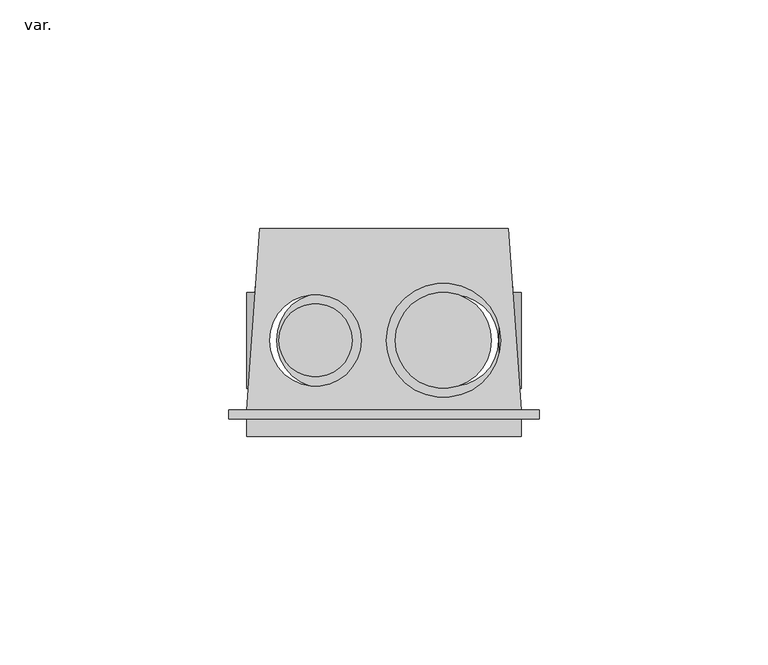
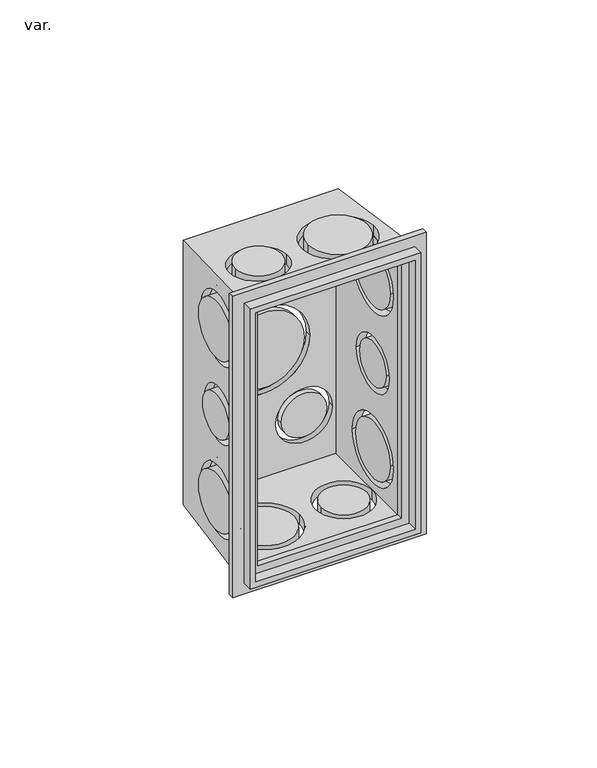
"""IFC4 building model written with IfcOpenShell, lengths in millimetres: pipe fitting geometry, AmancoWavin_ConexõesdoConduite_LinhaEletricaSoldRoscCaixa4x2 : var.."""

import ifcopenshell
import ifcopenshell.guid

model = None  # the IFC model being written
_history = None  # IfcOwnerHistory: only IFC2X3 demands one
_inside = {}  # id of a spatial element -> (the spatial element, [elements in it])
_under = {}  # id of a project, library or spatial element -> (it, [spatial elements below it])
_declared = {}  # id of a project -> (the project, [libraries it declares])
_typed = {}  # id of a type object -> (the type object, [elements of that type])
_made_of = {}  # id of a material, layer set ... -> (it, [elements and type objects made of it])


def new_model(schema):
    """Start an empty IFC model of exactly this schema.

    Asked for "IFC4X3", IfcOpenShell would pick the latest addendum, in which some entities
    have other attributes; the version numbers below select the first issue.
    IFC2X3 requires an IfcOwnerHistory on every rooted entity: one is made here for all.
    """
    global model, _history
    if schema == "IFC4X3":
        model = ifcopenshell.file(schema_version=(4, 3, 0, 0))
    else:
        model = ifcopenshell.file(schema=schema)
    _inside.clear()
    _under.clear()
    _declared.clear()
    _typed.clear()
    _made_of.clear()
    _history = None
    if model.schema == "IFC2X3":
        org = make("IfcOrganization", Name="unknown")
        user = make(
            "IfcPersonAndOrganization",
            ThePerson=make("IfcPerson", FamilyName="unknown"),
            TheOrganization=org,
        )
        app = make(
            "IfcApplication",
            ApplicationDeveloper=org,
            Version="unknown",
            ApplicationFullName="unknown",
            ApplicationIdentifier="unknown",
        )
        _history = make(
            "IfcOwnerHistory",
            OwningUser=user,
            OwningApplication=app,
            ChangeAction="ADDED",
            CreationDate=0,
        )
    return model


def make(cls, **values):
    """One entity of the class cls with the attributes given. An attribute that is None is left unset."""
    return model.create_entity(
        cls, **{name: value for name, value in values.items() if value is not None}
    )


def rooted(cls, **values):
    """An entity with a GlobalId (a new one), such as an element, a storey or a relation."""
    return make(cls, GlobalId=ifcopenshell.guid.new(), OwnerHistory=_history, **values)


def si_unit(unit_type, name, prefix=None):
    """IfcSIUnit, for example si_unit("LENGTHUNIT", "METRE", prefix="MILLI")."""
    return make("IfcSIUnit", UnitType=unit_type, Prefix=prefix, Name=name)


def assignment(units):
    """IfcUnitAssignment: the units of a project."""
    return None if units is None else make("IfcUnitAssignment", Units=units)


def point(xyz):
    """IfcCartesianPoint."""
    return None if xyz is None else make("IfcCartesianPoint", Coordinates=xyz)


def direction(xyz):
    """IfcDirection."""
    return None if xyz is None else make("IfcDirection", DirectionRatios=xyz)


def frame(location, z_axis=None, x_axis=None):
    """IfcAxis2Placement3D, a coordinate frame: its origin and axes. An axis left out is left unset."""
    return make(
        "IfcAxis2Placement3D",
        Location=point(location),
        Axis=direction(z_axis),
        RefDirection=direction(x_axis),
    )


def frame_2d(location, x_axis=None):
    """IfcAxis2Placement2D, a coordinate frame in the plane: its origin and x axis."""
    return make(
        "IfcAxis2Placement2D", Location=point(location), RefDirection=direction(x_axis)
    )


def origin():
    """The frame at (0, 0, 0) with its axes left unset."""
    return frame((0.0, 0.0, 0.0))


def place(relative_to, where):
    """IfcLocalPlacement: puts the frame where relative to a parent placement (None: the world)."""
    return make(
        "IfcLocalPlacement", PlacementRelTo=relative_to, RelativePlacement=where
    )


def context(
    kind, dimensions, precision=None, world=None, true_north=None, identifier=None
):
    """IfcGeometricRepresentationContext, for example the 3D "Model" context."""
    return make(
        "IfcGeometricRepresentationContext",
        ContextIdentifier=identifier,
        ContextType=kind,
        CoordinateSpaceDimension=dimensions,
        Precision=precision,
        WorldCoordinateSystem=world,
        TrueNorth=true_north,
    )


def project(units=None, contexts=None):
    """IfcProject with its units and contexts."""
    return rooted(
        "IfcProject",
        Name="project",
        RepresentationContexts=contexts,
        UnitsInContext=assignment(units),
    )


def spatial(cls, under=None, at=None, **own):
    """A site, building, storey or space (cls), placed at a placement, below another one or the project."""
    s = rooted(cls, ObjectPlacement=at, **own)
    if under is not None:
        _under.setdefault(under.id(), (under, []))[1].append(s)
    return s


def polyline(points):
    """IfcPolyline through the points."""
    return make("IfcPolyline", Points=[point(p) for p in points])


def circle_curve(where, radius):
    """IfcCircle in the frame where."""
    return make("IfcCircle", Position=where, Radius=radius)


def ellipse_curve(where, semi_axis1, semi_axis2):
    """IfcEllipse in the frame where."""
    return make(
        "IfcEllipse", Position=where, SemiAxis1=semi_axis1, SemiAxis2=semi_axis2
    )


def trimmed(basis, trim1, trim2, sense, master):
    """IfcTrimmedCurve: the piece of a basis curve between two trims."""
    return make(
        "IfcTrimmedCurve",
        BasisCurve=basis,
        Trim1=trim1,
        Trim2=trim2,
        SenseAgreement=sense,
        MasterRepresentation=master,
    )


def segment(curve, same_sense, transition):
    """IfcCompositeCurveSegment."""
    return make(
        "IfcCompositeCurveSegment",
        Transition=transition,
        SameSense=same_sense,
        ParentCurve=curve,
    )


def composite_curve(segments, self_intersect=None):
    """IfcCompositeCurve: segments joined end to end."""
    return make("IfcCompositeCurve", Segments=segments, SelfIntersect=self_intersect)


def outline(outer, holes=None, kind="AREA"):
    """IfcArbitraryClosedProfileDef: a profile drawn as a closed curve; with holes, ...WithVoids."""
    if holes is None:
        return make("IfcArbitraryClosedProfileDef", ProfileType=kind, OuterCurve=outer)
    return make(
        "IfcArbitraryProfileDefWithVoids",
        ProfileType=kind,
        OuterCurve=outer,
        InnerCurves=holes,
    )


def extrude(swept, where, along, depth):
    """IfcExtrudedAreaSolid: the profile swept, set in the frame where, extruded along a direction by depth."""
    return make(
        "IfcExtrudedAreaSolid",
        SweptArea=swept,
        Position=where,
        ExtrudedDirection=direction(along),
        Depth=depth,
    )


def shape(context_of_items, identifier, shape_type, items):
    """IfcShapeRepresentation: the items that make up one representation, for example the "Body"."""
    return make(
        "IfcShapeRepresentation",
        ContextOfItems=context_of_items,
        RepresentationIdentifier=identifier,
        RepresentationType=shape_type,
        Items=items,
    )


def source(mapping_origin, context_of_items, identifier, shape_type, items):
    """IfcRepresentationMap: a shape defined once, which mapped items show again and again."""
    return make(
        "IfcRepresentationMap",
        MappingOrigin=mapping_origin,
        MappedRepresentation=shape(context_of_items, identifier, shape_type, items),
    )


def transform(
    local_origin,
    x_axis=None,
    y_axis=None,
    z_axis=None,
    scale=None,
    scale2=None,
    scale3=None,
    uniform=True,
):
    """IfcCartesianTransformationOperator3D, or its non-uniform kind. x_axis, y_axis, z_axis: its Axis1, 2, 3."""
    if uniform:
        return make(
            "IfcCartesianTransformationOperator3D",
            Axis1=direction(x_axis),
            Axis2=direction(y_axis),
            LocalOrigin=point(local_origin),
            Scale=scale,
            Axis3=direction(z_axis),
        )
    return make(
        "IfcCartesianTransformationOperator3DnonUniform",
        Axis1=direction(x_axis),
        Axis2=direction(y_axis),
        LocalOrigin=point(local_origin),
        Scale=scale,
        Axis3=direction(z_axis),
        Scale2=scale2,
        Scale3=scale3,
    )


def mapped(mapping_source, mapping_target):
    """IfcMappedItem: shows the shape of a source again, moved by a transform."""
    return make(
        "IfcMappedItem", MappingSource=mapping_source, MappingTarget=mapping_target
    )


def made_of(thing, what):
    """Note that an element or type object is made of a material, layer set ...; save() writes the relation."""
    if what is not None:
        _made_of.setdefault(what.id(), (what, []))[1].append(thing)
    return thing


def element(
    cls,
    number,
    at=None,
    inside=None,
    cuts=None,
    type_object=None,
    material=None,
    context=None,
    identifier="Body",
    shape_type=None,
    held_by="IfcProductDefinitionShape",
    body=None,
    shapes=None,
    **own,
):
    """One element of the class cls, such as IfcWall. Its Tag is "e" and its number.

    at: its placement. inside: the storey or other place that contains it. cuts: it is an
    opening in that element (IfcRelVoidsElement). A single representation is given by context,
    identifier, shape_type and body (its items); several are given by shapes. held_by: the class
    of the entity that holds the representations. save() writes the other relations.
    """
    e = rooted(cls, Tag="e%d" % number, ObjectPlacement=at, **own)
    if body is not None:
        shapes = [shape(context, identifier, shape_type, body)]
    if shapes is not None:
        e.Representation = make(held_by, Representations=shapes)
    if inside is not None:
        _inside.setdefault(inside.id(), (inside, []))[1].append(e)
    if cuts is not None:
        rooted(
            "IfcRelVoidsElement", RelatingBuildingElement=cuts, RelatedOpeningElement=e
        )
    if type_object is not None:
        _typed.setdefault(type_object.id(), (type_object, []))[1].append(e)
    return made_of(e, material)


def aggregate(whole, parts):
    """IfcRelAggregates: a whole, such as a stair, and the parts it consists of."""
    return rooted("IfcRelAggregates", RelatingObject=whole, RelatedObjects=parts)


def save(model, path):
    """Write the relations noted so far, then the file.

    IfcRelAggregates (storeys below a building ...), IfcRelContainedInSpatialStructure (elements
    in a storey), IfcRelDefinesByType, IfcRelAssociatesMaterial and IfcRelDeclares: one each for
    every whole, place, type object, material and project.
    """
    for whole, parts in _under.values():
        aggregate(whole, parts)
    for where, things in _inside.values():
        rooted(
            "IfcRelContainedInSpatialStructure",
            RelatedElements=things,
            RelatingStructure=where,
        )
    for kind, things in _typed.values():
        rooted("IfcRelDefinesByType", RelatedObjects=things, RelatingType=kind)
    for what, things in _made_of.values():
        rooted("IfcRelAssociatesMaterial", RelatedObjects=things, RelatingMaterial=what)
    for by, libraries in _declared.values():
        rooted("IfcRelDeclares", RelatingContext=by, RelatedDefinitions=libraries)
    model.write(path)


def plane_surface(at):
    """IfcPlane: the flat surface through the origin of the frame at, square to its z axis."""
    return make("IfcPlane", Position=at)


def cylinder_surface(at, radius):
    """IfcCylindricalSurface: all points at the distance radius from the z axis of the frame at."""
    return make("IfcCylindricalSurface", Position=at, Radius=radius)


def revolved_surface(curve, axis_point, axis_direction):
    """IfcSurfaceOfRevolution: the curve turned about the line through axis_point along axis_direction."""
    return make(
        "IfcSurfaceOfRevolution",
        SweptCurve=make("IfcArbitraryOpenProfileDef", ProfileType="CURVE", Curve=curve),
        AxisPosition=make("IfcAxis1Placement", Location=point(axis_point), Axis=direction(axis_direction)),
    )


def advanced_brep(points, edges, surfaces, faces):
    """IfcAdvancedBrep: a solid bounded by faces that lie on surfaces and meet in shared edges.

    An edge is (start, end): straight between two places in points (the first is 0);
    or (start, end, curve); or (start, end, curve, False) where it runs against its curve.
    A face is (place in surfaces, loops), or (place, loops, False) where it looks against
    its surface's normal. A loop lists edges by number (the first is 1), with a minus sign
    where the edge is run from its end to its start. The first loop is the outer one.
    """
    corners = [point(p) for p in points]
    vertices = [make("IfcVertexPoint", VertexGeometry=c) for c in corners]
    made = []
    for start, end, *more in edges:
        made.append(
            make(
                "IfcEdgeCurve",
                EdgeStart=vertices[start],
                EdgeEnd=vertices[end],
                EdgeGeometry=more[0] if more else make("IfcPolyline", Points=[corners[start], corners[end]]),
                SameSense=more[1] if len(more) > 1 else True,
            )
        )
    hull = []
    for where, loops, *sense in faces:
        bounds = []
        for j, loop in enumerate(loops):
            ring = [make("IfcOrientedEdge", EdgeElement=made[abs(k) - 1], Orientation=k > 0) for k in loop]
            bounds.append(
                make(
                    "IfcFaceOuterBound" if j == 0 else "IfcFaceBound",
                    Bound=make("IfcEdgeLoop", EdgeList=ring),
                    Orientation=True,
                )
            )
        hull.append(make("IfcAdvancedFace", Bounds=bounds, FaceSurface=surfaces[where], SameSense=sense[0] if sense else True))
    return make("IfcAdvancedBrep", Outer=make("IfcClosedShell", CfsFaces=hull))


def var_ca1eaef3(model_context):
    return source(origin(), model_context, "Body", "SolidModel", [
        extrude(outline(composite_curve([segment(trimmed(circle_curve(frame_2d((-13.0, 21.0)), 10.5), [point((-23.5, 21.0))], [point((-2.5, 21.0))], False, "CARTESIAN"), True, "CONTINUOUS"), segment(trimmed(circle_curve(frame_2d((-13.0, 21.0)), 10.5), [point((-2.5, 21.0))], [point((-23.5, 21.0))], False, "CARTESIAN"), True, "CONTINUOUS")], self_intersect=False)), frame((0.0, 0.0, -52.0), z_axis=(0.0, 0.0, 1.0), x_axis=(1.0, 0.0, 0.0)), (0.0, 0.0, 1.0), 4.7760944),
        extrude(outline(composite_curve([segment(trimmed(circle_curve(frame_2d((15.0, 21.0)), 8.0), [point((7.0, 21.0))], [point((23.0, 21.0))], False, "CARTESIAN"), True, "CONTINUOUS"), segment(trimmed(circle_curve(frame_2d((15.0, 21.0)), 8.0), [point((23.0, 21.0))], [point((7.0, 21.0))], False, "CARTESIAN"), True, "CONTINUOUS")], self_intersect=False)), frame((0.0, 0.0, -52.0), z_axis=(0.0, 0.0, 1.0), x_axis=(1.0, 0.0, 0.0)), (0.0, 0.0, 1.0), 4.7760944),
        extrude(outline(composite_curve([segment(trimmed(circle_curve(frame_2d((-15.0, 21.0)), 8.0), [point((-23.0, 21.0))], [point((-7.0, 21.0))], False, "CARTESIAN"), True, "CONTINUOUS"), segment(trimmed(circle_curve(frame_2d((-15.0, 21.0)), 8.0), [point((-7.0, 21.0))], [point((-23.0, 21.0))], False, "CARTESIAN"), True, "CONTINUOUS")], self_intersect=False)), frame((0.0, 0.0, 47.2239056), z_axis=(0.0, 0.0, 1.0), x_axis=(1.0, 0.0, 0.0)), (0.0, 0.0, 1.0), 4.7760944),
        extrude(outline(composite_curve([segment(trimmed(circle_curve(frame_2d((13.0, 21.0)), 10.5), [point((2.5, 21.0))], [point((23.5, 21.0))], False, "CARTESIAN"), True, "CONTINUOUS"), segment(trimmed(circle_curve(frame_2d((13.0, 21.0)), 10.5), [point((23.5, 21.0))], [point((2.5, 21.0))], False, "CARTESIAN"), True, "CONTINUOUS")], self_intersect=False)), frame((0.0, 0.0, 47.2239056), z_axis=(0.0, 0.0, 1.0), x_axis=(1.0, 0.0, 0.0)), (0.0, 0.0, 1.0), 4.7760944),
        extrude(outline(composite_curve([segment(trimmed(circle_curve(frame_2d((21.0, 32.0)), 10.5), [point((31.5, 32.0))], [point((10.5, 32.0))], False, "CARTESIAN"), True, "CONTINUOUS"), segment(trimmed(circle_curve(frame_2d((21.0, 32.0)), 10.5), [point((10.5, 32.0))], [point((31.5, 32.0))], False, "CARTESIAN"), True, "CONTINUOUS")], self_intersect=False)), frame((25.2239056, 0.0, 0.0), z_axis=(1.0, 0.0, 0.0), x_axis=(0.0, 1.0, 0.0)), (0.0, 0.0, 1.0), 4.7760944),
        extrude(outline(composite_curve([segment(trimmed(circle_curve(frame_2d((21.0, 0.0)), 8.0), [point((29.0, 0.0))], [point((13.0, 0.0))], False, "CARTESIAN"), True, "CONTINUOUS"), segment(trimmed(circle_curve(frame_2d((21.0, 0.0)), 8.0), [point((13.0, 0.0))], [point((29.0, 0.0))], False, "CARTESIAN"), True, "CONTINUOUS")], self_intersect=False)), frame((25.2239056, 0.0, 0.0), z_axis=(1.0, 0.0, 0.0), x_axis=(0.0, 1.0, 0.0)), (0.0, 0.0, 1.0), 4.7760944),
        extrude(outline(composite_curve([segment(trimmed(circle_curve(frame_2d((21.0, -32.0)), 10.5), [point((31.5, -32.0))], [point((10.5, -32.0))], False, "CARTESIAN"), True, "CONTINUOUS"), segment(trimmed(circle_curve(frame_2d((21.0, -32.0)), 10.5), [point((10.5, -32.0))], [point((31.5, -32.0))], False, "CARTESIAN"), True, "CONTINUOUS")], self_intersect=False)), frame((25.2239056, 0.0, 0.0), z_axis=(1.0, 0.0, 0.0), x_axis=(0.0, 1.0, 0.0)), (0.0, 0.0, 1.0), 4.7760944),
        extrude(outline(composite_curve([segment(trimmed(circle_curve(frame_2d((21.0, 32.0)), 10.5), [point((31.5, 32.0))], [point((10.5, 32.0))], False, "CARTESIAN"), True, "CONTINUOUS"), segment(trimmed(circle_curve(frame_2d((21.0, 32.0)), 10.5), [point((10.5, 32.0))], [point((31.5, 32.0))], False, "CARTESIAN"), True, "CONTINUOUS")], self_intersect=False)), frame((-30.0, 0.0, 0.0), z_axis=(1.0, 0.0, 0.0), x_axis=(0.0, 1.0, 0.0)), (0.0, 0.0, 1.0), 4.7760944),
        extrude(outline(composite_curve([segment(trimmed(circle_curve(frame_2d((21.0, 0.0)), 8.0), [point((29.0, 0.0))], [point((13.0, 0.0))], False, "CARTESIAN"), True, "CONTINUOUS"), segment(trimmed(circle_curve(frame_2d((21.0, 0.0)), 8.0), [point((13.0, 0.0))], [point((29.0, 0.0))], False, "CARTESIAN"), True, "CONTINUOUS")], self_intersect=False)), frame((-30.0, 0.0, 0.0), z_axis=(1.0, 0.0, 0.0), x_axis=(0.0, 1.0, 0.0)), (0.0, 0.0, 1.0), 4.7760944),
        extrude(outline(composite_curve([segment(trimmed(circle_curve(frame_2d((21.0, -32.0)), 10.5), [point((31.5, -32.0))], [point((10.5, -32.0))], False, "CARTESIAN"), True, "CONTINUOUS"), segment(trimmed(circle_curve(frame_2d((21.0, -32.0)), 10.5), [point((10.5, -32.0))], [point((31.5, -32.0))], False, "CARTESIAN"), True, "CONTINUOUS")], self_intersect=False)), frame((-30.0, 0.0, 0.0), z_axis=(1.0, 0.0, 0.0), x_axis=(0.0, 1.0, 0.0)), (0.0, 0.0, 1.0), 4.7760944),
        extrude(outline(polyline([(-52.0, -30.0), (-52.0, 30.0), (52.0, 30.0), (52.0, -30.0), (-52.0, -30.0)]), holes=[polyline([(-50.0, -28.0), (50.0, -28.0), (50.0, 28.0), (-50.0, 28.0), (-50.0, -28.0)])]), frame((0.0, 0.0, 0.0), z_axis=(0.0, 1.0, 0.0), x_axis=(0.0, 0.0, 1.0)), (0.0, 0.0, 1.0), 3.8),
        extrude(outline(polyline([(56.0, 34.0), (56.0, -34.0), (-56.0, -34.0), (-56.0, 34.0), (56.0, 34.0)]), holes=[polyline([(-47.2239056, -25.2239056), (47.2239056, -25.2239056), (47.2239056, 25.2239056), (-47.2239056, 25.2239056), (-47.2239056, -25.2239056)])]), frame((0.0, 3.8, 0.0), z_axis=(0.0, 1.0, 0.0), x_axis=(0.0, 0.0, 1.0)), (0.0, 0.0, 1.0), 2.0),
        advanced_brep(
        [(27.2239056, 45.5, 49.2239056), (27.2239056, 45.5, -49.2239056), (-27.2239056, 45.5, -49.2239056), (-27.2239056, 45.5, 49.2239056), (-24.0, 45.5, 29.0), (-4.0, 45.5, 29.0), (-16.0, 45.5, 0.0), (16.0, 45.5, 0.0), (4.0, 45.5, -29.0), (24.0, 45.5, -29.0), (30.0, 5.8, 52.0), (-30.0, 5.8, 52.0), (-30.0, 5.8, -52.0), (30.0, 5.8, -52.0), (25.2239056, 5.8, 47.2239056), (25.2239056, 5.8, -47.2239056), (-25.2239056, 5.8, -47.2239056), (-25.2239056, 5.8, 47.2239056), (28.0630273, 33.5, 32.0), (29.8111976, 8.5, 32.0), (28.2378443, 31.0, 0.0), (29.6363806, 11.0, 0.0), (28.0630273, 33.5, -32.0), (29.8111976, 8.5, -32.0), (5.0, 21.0, -50.9371125), (25.0, 21.0, -50.9371125), (-25.5, 21.0, -50.9371125), (-0.5, 21.0, -50.9371125), (-29.8111976, 8.5, 32.0), (-28.0630273, 33.5, 32.0), (-29.6363806, 11.0, 0.0), (-28.2378443, 31.0, 0.0), (-29.8111976, 8.5, -32.0), (-28.0630273, 33.5, -32.0), (25.5, 21.0, 50.9371125), (0.5, 21.0, 50.9371125), (-5.0, 21.0, 50.9371125), (-25.0, 21.0, 50.9371125), (25.2239056, 43.5, 47.2239056), (-25.2239056, 43.5, 47.2239056), (-25.2239056, 43.5, -47.2239056), (25.2239056, 43.5, -47.2239056), (-4.0, 43.5, 29.0), (-24.0, 43.5, 29.0), (16.0, 43.5, 0.0), (-16.0, 43.5, 0.0), (24.0, 43.5, -29.0), (4.0, 43.5, -29.0), (25.2239056, 18.3873131, 47.2239056), (25.2239056, 23.6126869, 47.2239056), (25.2239056, 8.5, 32.0), (25.2239056, 33.5, 32.0), (25.2239056, 11.0, 0.0), (25.2239056, 31.0, 0.0), (25.2239056, 8.5, -32.0), (25.2239056, 33.5, -32.0), (-25.2239056, 23.6126869, -47.2239056), (-0.5, 21.0, -47.2239056), (-25.2239056, 18.3873131, -47.2239056), (25.0, 21.0, -47.2239056), (5.0, 21.0, -47.2239056), (-25.2239056, 33.5, 32.0), (-25.2239056, 8.5, 32.0), (-25.2239056, 31.0, 0.0), (-25.2239056, 11.0, 0.0), (-25.2239056, 33.5, -32.0), (-25.2239056, 8.5, -32.0), (0.5, 21.0, 47.2239056), (-25.0, 21.0, 47.2239056), (-5.0, 21.0, 47.2239056), (25.5, 21.0, 47.2239056), (-25.5, 21.0, -47.2239056)],
        [
            (0, 1),
            (1, 2),
            (2, 3),
            (3, 0),
            (4, 5, circle_curve(frame((-14.0, 45.5, 29.0), z_axis=(0.0, -1.0, 0.0), x_axis=(-1.0, 0.0, 0.0)), 10.0)),
            (5, 4, circle_curve(frame((-14.0, 45.5, 29.0), z_axis=(0.0, -1.0, 0.0), x_axis=(-1.0, 0.0, 0.0)), 10.0)),
            (6, 7, circle_curve(frame((0.0, 45.5, 0.0), z_axis=(0.0, -1.0, 0.0), x_axis=(-1.0, 0.0, 0.0)), 16.0)),
            (7, 6, circle_curve(frame((0.0, 45.5, 0.0), z_axis=(0.0, -1.0, 0.0), x_axis=(-1.0, 0.0, 0.0)), 16.0)),
            (8, 9, circle_curve(frame((14.0, 45.5, -29.0), z_axis=(0.0, -1.0, 0.0), x_axis=(-1.0, 0.0, 0.0)), 10.0)),
            (9, 8, circle_curve(frame((14.0, 45.5, -29.0), z_axis=(0.0, -1.0, 0.0), x_axis=(-1.0, 0.0, 0.0)), 10.0)),
            (10, 11),
            (11, 12),
            (12, 13),
            (13, 10),
            (14, 15),
            (15, 16),
            (16, 17),
            (17, 14),
            (0, 10),
            (13, 1),
            (18, 19, ellipse_curve(frame((28.9371125, 21.0, 32.0), z_axis=(-0.9975640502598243, -0.06975647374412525, 0.0), x_axis=(-0.06975647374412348, 0.9975640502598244, 0.0)), 12.5305237, 12.5)),
            (19, 18, ellipse_curve(frame((28.9371125, 21.0, 32.0), z_axis=(-0.9975640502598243, -0.06975647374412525, 0.0), x_axis=(-0.06975647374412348, 0.9975640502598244, 0.0)), 12.5305237, 12.5)),
            (20, 21, ellipse_curve(frame((28.9371125, 21.0, 0.0), z_axis=(-0.9975640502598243, -0.06975647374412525, 0.0), x_axis=(-0.06975647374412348, 0.9975640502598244, 0.0)), 10.024419, 10.0)),
            (21, 20, ellipse_curve(frame((28.9371125, 21.0, 0.0), z_axis=(-0.9975640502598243, -0.06975647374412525, 0.0), x_axis=(-0.06975647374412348, 0.9975640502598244, 0.0)), 10.024419, 10.0)),
            (22, 23, ellipse_curve(frame((28.9371125, 21.0, -32.0), z_axis=(-0.9975640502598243, -0.06975647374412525, 0.0), x_axis=(-0.06975647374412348, 0.9975640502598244, 0.0)), 12.5305237, 12.5)),
            (23, 22, ellipse_curve(frame((28.9371125, 21.0, -32.0), z_axis=(-0.9975640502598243, -0.06975647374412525, 0.0), x_axis=(-0.06975647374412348, 0.9975640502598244, 0.0)), 12.5305237, 12.5)),
            (12, 2),
            (24, 25, ellipse_curve(frame((15.0, 21.0, -50.9371125), z_axis=(0.0, -0.06975647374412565, 0.9975640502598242), x_axis=(0.0, 0.9975640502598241, 0.0697564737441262)), 10.024419, 10.0)),
            (25, 24, ellipse_curve(frame((15.0, 21.0, -50.9371125), z_axis=(0.0, -0.06975647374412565, 0.9975640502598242), x_axis=(0.0, 0.9975640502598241, 0.0697564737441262)), 10.024419, 10.0)),
            (26, 27, ellipse_curve(frame((-13.0, 21.0, -50.9371125), z_axis=(0.0, -0.06975647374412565, 0.9975640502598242), x_axis=(0.0, 0.9975640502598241, 0.0697564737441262)), 12.5305237, 12.5)),
            (27, 26, ellipse_curve(frame((-13.0, 21.0, -50.9371125), z_axis=(0.0, -0.06975647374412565, 0.9975640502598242), x_axis=(0.0, 0.9975640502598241, 0.0697564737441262)), 12.5305237, 12.5)),
            (11, 3),
            (28, 29, ellipse_curve(frame((-28.9371125, 21.0, 32.0), z_axis=(0.9975640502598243, -0.06975647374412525, 0.0), x_axis=(-0.06975647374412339, -0.9975640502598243, 0.0)), 12.5305237, 12.5)),
            (29, 28, ellipse_curve(frame((-28.9371125, 21.0, 32.0), z_axis=(0.9975640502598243, -0.06975647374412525, 0.0), x_axis=(-0.06975647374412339, -0.9975640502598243, 0.0)), 12.5305237, 12.5)),
            (30, 31, ellipse_curve(frame((-28.9371125, 21.0, 0.0), z_axis=(0.9975640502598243, -0.06975647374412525, 0.0), x_axis=(-0.06975647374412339, -0.9975640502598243, 0.0)), 10.024419, 10.0)),
            (31, 30, ellipse_curve(frame((-28.9371125, 21.0, 0.0), z_axis=(0.9975640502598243, -0.06975647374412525, 0.0), x_axis=(-0.06975647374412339, -0.9975640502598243, 0.0)), 10.024419, 10.0)),
            (32, 33, ellipse_curve(frame((-28.9371125, 21.0, -32.0), z_axis=(0.9975640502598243, -0.06975647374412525, 0.0), x_axis=(-0.06975647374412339, -0.9975640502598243, 0.0)), 12.5305237, 12.5)),
            (33, 32, ellipse_curve(frame((-28.9371125, 21.0, -32.0), z_axis=(0.9975640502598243, -0.06975647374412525, 0.0), x_axis=(-0.06975647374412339, -0.9975640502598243, 0.0)), 12.5305237, 12.5)),
            (34, 35, ellipse_curve(frame((13.0, 21.0, 50.9371125), z_axis=(0.0, -0.06975647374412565, -0.9975640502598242), x_axis=(0.0, -0.9975640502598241, 0.0697564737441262)), 12.5305237, 12.5)),
            (35, 34, ellipse_curve(frame((13.0, 21.0, 50.9371125), z_axis=(0.0, -0.06975647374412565, -0.9975640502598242), x_axis=(0.0, -0.9975640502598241, 0.0697564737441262)), 12.5305237, 12.5)),
            (36, 37, ellipse_curve(frame((-15.0, 21.0, 50.9371125), z_axis=(0.0, -0.06975647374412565, -0.9975640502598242), x_axis=(0.0, -0.9975640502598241, 0.0697564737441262)), 10.024419, 10.0)),
            (37, 36, ellipse_curve(frame((-15.0, 21.0, 50.9371125), z_axis=(0.0, -0.06975647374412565, -0.9975640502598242), x_axis=(0.0, -0.9975640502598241, 0.0697564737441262)), 10.024419, 10.0)),
            (38, 39),
            (39, 40),
            (40, 41),
            (41, 38),
            (42, 43, circle_curve(frame((-14.0, 43.5, 29.0), z_axis=(0.0, 1.0, 0.0), x_axis=(-1.0, 0.0, 0.0)), 10.0)),
            (43, 42, circle_curve(frame((-14.0, 43.5, 29.0), z_axis=(0.0, 1.0, 0.0), x_axis=(-1.0, 0.0, 0.0)), 10.0)),
            (44, 45, circle_curve(frame((0.0, 43.5, 0.0), z_axis=(0.0, 1.0, 0.0), x_axis=(-1.0, 0.0, 0.0)), 16.0)),
            (45, 44, circle_curve(frame((0.0, 43.5, 0.0), z_axis=(0.0, 1.0, 0.0), x_axis=(-1.0, 0.0, 0.0)), 16.0)),
            (46, 47, circle_curve(frame((14.0, 43.5, -29.0), z_axis=(0.0, 1.0, 0.0), x_axis=(-1.0, 0.0, 0.0)), 10.0)),
            (47, 46, circle_curve(frame((14.0, 43.5, -29.0), z_axis=(0.0, 1.0, 0.0), x_axis=(-1.0, 0.0, 0.0)), 10.0)),
            (41, 15),
            (14, 48),
            (48, 49),
            (49, 38),
            (50, 51, circle_curve(frame((25.2239056, 21.0, 32.0), z_axis=(1.0, 0.0, 0.0), x_axis=(0.0, -1.0, 0.0)), 12.5)),
            (51, 50, circle_curve(frame((25.2239056, 21.0, 32.0), z_axis=(1.0, 0.0, 0.0), x_axis=(0.0, -1.0, 0.0)), 12.5)),
            (52, 53, circle_curve(frame((25.2239056, 21.0, 0.0), z_axis=(1.0, 0.0, 0.0), x_axis=(0.0, -1.0, 0.0)), 10.0)),
            (53, 52, circle_curve(frame((25.2239056, 21.0, 0.0), z_axis=(1.0, 0.0, 0.0), x_axis=(0.0, -1.0, 0.0)), 10.0)),
            (54, 55, circle_curve(frame((25.2239056, 21.0, -32.0), z_axis=(1.0, 0.0, 0.0), x_axis=(0.0, -1.0, 0.0)), 12.5)),
            (55, 54, circle_curve(frame((25.2239056, 21.0, -32.0), z_axis=(1.0, 0.0, 0.0), x_axis=(0.0, -1.0, 0.0)), 12.5)),
            (40, 56),
            (56, 57, circle_curve(frame((-13.0, 21.0, -47.2239056), z_axis=(0.0, 0.0, -1.0), x_axis=(1.0, 0.0, 0.0)), 12.5)),
            (57, 58, circle_curve(frame((-13.0, 21.0, -47.2239056), z_axis=(0.0, 0.0, -1.0), x_axis=(1.0, 0.0, 0.0)), 12.5)),
            (58, 16),
            (59, 60, circle_curve(frame((15.0, 21.0, -47.2239056), z_axis=(0.0, 0.0, -1.0), x_axis=(1.0, 0.0, 0.0)), 10.0)),
            (60, 59, circle_curve(frame((15.0, 21.0, -47.2239056), z_axis=(0.0, 0.0, -1.0), x_axis=(1.0, 0.0, 0.0)), 10.0)),
            (39, 17),
            (58, 56),
            (61, 62, circle_curve(frame((-25.2239056, 21.0, 32.0), z_axis=(-1.0, 0.0, 0.0), x_axis=(0.0, -1.0, 0.0)), 12.5)),
            (62, 61, circle_curve(frame((-25.2239056, 21.0, 32.0), z_axis=(-1.0, 0.0, 0.0), x_axis=(0.0, -1.0, 0.0)), 12.5)),
            (63, 64, circle_curve(frame((-25.2239056, 21.0, 0.0), z_axis=(-1.0, 0.0, 0.0), x_axis=(0.0, -1.0, 0.0)), 10.0)),
            (64, 63, circle_curve(frame((-25.2239056, 21.0, 0.0), z_axis=(-1.0, 0.0, 0.0), x_axis=(0.0, -1.0, 0.0)), 10.0)),
            (65, 66, circle_curve(frame((-25.2239056, 21.0, -32.0), z_axis=(-1.0, 0.0, 0.0), x_axis=(0.0, -1.0, 0.0)), 12.5)),
            (66, 65, circle_curve(frame((-25.2239056, 21.0, -32.0), z_axis=(-1.0, 0.0, 0.0), x_axis=(0.0, -1.0, 0.0)), 12.5)),
            (49, 67, circle_curve(frame((13.0, 21.0, 47.2239056), z_axis=(0.0, 0.0, 1.0), x_axis=(1.0, 0.0, 0.0)), 12.5)),
            (67, 48, circle_curve(frame((13.0, 21.0, 47.2239056), z_axis=(0.0, 0.0, 1.0), x_axis=(1.0, 0.0, 0.0)), 12.5)),
            (68, 69, circle_curve(frame((-15.0, 21.0, 47.2239056), z_axis=(0.0, 0.0, 1.0), x_axis=(1.0, 0.0, 0.0)), 10.0)),
            (69, 68, circle_curve(frame((-15.0, 21.0, 47.2239056), z_axis=(0.0, 0.0, 1.0), x_axis=(1.0, 0.0, 0.0)), 10.0)),
            (18, 51),
            (50, 19),
            (61, 29),
            (28, 62),
            (20, 53),
            (52, 21),
            (63, 31),
            (30, 64),
            (22, 55),
            (54, 23),
            (65, 33),
            (32, 66),
            (48, 70, circle_curve(frame((13.0, 21.0, 47.2239056), z_axis=(0.0, 0.0, 1.0), x_axis=(1.0, 0.0, 0.0)), 12.5)),
            (70, 49, circle_curve(frame((13.0, 21.0, 47.2239056), z_axis=(0.0, 0.0, 1.0), x_axis=(1.0, 0.0, 0.0)), 12.5)),
            (67, 35),
            (34, 70),
            (68, 37),
            (36, 69),
            (58, 71, circle_curve(frame((-13.0, 21.0, -47.2239056), z_axis=(0.0, 0.0, -1.0), x_axis=(1.0, 0.0, 0.0)), 12.5)),
            (71, 56, circle_curve(frame((-13.0, 21.0, -47.2239056), z_axis=(0.0, 0.0, -1.0), x_axis=(1.0, 0.0, 0.0)), 12.5)),
            (24, 60),
            (59, 25),
            (57, 27),
            (26, 71),
            (4, 43),
            (42, 5),
            (6, 45),
            (44, 7),
            (8, 47),
            (46, 9),
        ],
        [
            plane_surface(frame((0.0, 45.5, 0.0), z_axis=(0.0, 1.0, 0.0), x_axis=(0.0, 0.0, -1.0))),
            plane_surface(frame((0.0, 5.8, 0.0), z_axis=(0.0, -1.0, 0.0), x_axis=(0.0, 0.0, -1.0))),
            plane_surface(frame((30.0, 5.8, 0.0), z_axis=(0.9975640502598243, 0.06975647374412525, 0.0), x_axis=(0.0, 0.0, -1.0))),
            plane_surface(frame((0.0, 5.8, -52.0), z_axis=(0.0, 0.06975647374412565, -0.9975640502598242), x_axis=(-1.0, 0.0, 0.0))),
            plane_surface(frame((-30.0, 5.8, 0.0), z_axis=(-0.9975640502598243, 0.06975647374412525, 0.0), x_axis=(0.0, 0.0, 1.0))),
            plane_surface(frame((0.0, 5.8, 52.0), z_axis=(0.0, 0.06975647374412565, 0.9975640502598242), x_axis=(1.0, 0.0, 0.0))),
            plane_surface(frame((25.2239056, 43.5, 47.2239056), z_axis=(0.0, -1.0, 0.0), x_axis=(0.0, 0.0, -1.0))),
            plane_surface(frame((25.2239056, 43.5, 47.2239056), z_axis=(-1.0, 0.0, 0.0), x_axis=(0.0, -1.0, 0.0))),
            plane_surface(frame((25.2239056, 43.5, -47.2239056), z_axis=(0.0, 0.0, 1.0), x_axis=(0.0, -1.0, 0.0))),
            plane_surface(frame((-25.2239056, 43.5, -47.2239056), z_axis=(1.0, 0.0, 0.0), x_axis=(0.0, -1.0, 0.0))),
            plane_surface(frame((-25.2239056, 43.5, 47.2239056), z_axis=(0.0, 0.0, -1.0), x_axis=(0.0, -1.0, 0.0))),
            revolved_surface(polyline([(25.223905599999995, 8.5, 32.0), (29.811197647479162, 8.5, 32.0)]), (64.076345, 21.0, 32.0), (-1.0, 0.0, 0.0)),
            revolved_surface(polyline([(-29.811197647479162, 8.5, 32.0), (-25.223905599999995, 8.5, 32.0)]), (64.076345, 21.0, 32.0), (-1.0, 0.0, 0.0)),
            revolved_surface(polyline([(25.2239056, 11.0, 0.0), (29.636380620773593, 11.0, 0.0)]), (0.0, 21.0, 0.0), (-1.0, 0.0, 0.0)),
            revolved_surface(polyline([(-29.636380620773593, 11.0, 0.0), (-25.2239056, 11.0, 0.0)]), (0.0, 21.0, 0.0), (-1.0, 0.0, 0.0)),
            revolved_surface(polyline([(25.2239056, 8.5, -32.0), (29.81119764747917, 8.5, -32.0)]), (0.0, 21.0, -32.0), (-1.0, 0.0, 0.0)),
            revolved_surface(polyline([(-29.81119764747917, 8.5, -32.0), (-25.2239056, 8.5, -32.0)]), (0.0, 21.0, -32.0), (-1.0, 0.0, 0.0)),
            plane_surface(frame((25.5, 21.0, 47.2239056), z_axis=(0.0, 0.0, 1.0), x_axis=(0.0, -1.0, 0.0))),
            revolved_surface(polyline([(25.5, 21.0, 51.8111976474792), (25.5, 21.0, 47.2239056)]), (13.0, 21.0, 47.2239056), (0.0, 0.0, 1.0)),
            revolved_surface(polyline([(-5.0, 21.0, 51.636380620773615), (-5.0, 21.0, 47.2239056)]), (-15.0, 21.0, 0.0), (0.0, 0.0, 1.0)),
            plane_surface(frame((25.0, 21.0, -47.2239056), z_axis=(0.0, 0.0, -1.0), x_axis=(0.0, 1.0, 0.0))),
            revolved_surface(polyline([(25.0, 21.0, -47.2239056), (25.0, 21.0, -51.636380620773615)]), (15.0, 21.0, -56.0), (0.0, 0.0, 1.0)),
            revolved_surface(polyline([(-0.5, 21.0, -47.2239056), (-0.5, 21.0, -51.8111976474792)]), (-13.0, 21.0, 0.0), (0.0, 0.0, 1.0)),
            revolved_surface(polyline([(-24.0, 45.5, 29.0), (-24.0, 43.5, 29.0)]), (-14.0, 43.5, 29.0), (0.0, 1.0, 0.0)),
            revolved_surface(polyline([(-16.0, 45.5, 0.0), (-16.0, 43.5, 0.0)]), (0.0, 0.0, 0.0), (0.0, 1.0, 0.0)),
            revolved_surface(polyline([(4.0, 45.5, -29.0), (4.0, 43.5, -29.0)]), (14.0, 0.0, -29.0), (0.0, 1.0, 0.0)),
        ],
        [
            (0, [[1, 2, 3, 4], [5, 6], [7, 8], [9, 10]]),
            (1, [[11, 12, 13, 14], [15, 16, 17, 18]]),
            (2, [[-1, 19, -14, 20], [21, 22], [23, 24], [25, 26]]),
            (3, [[-2, -20, -13, 27], [28, 29], [30, 31]]),
            (4, [[-3, -27, -12, 32], [33, 34], [35, 36], [37, 38]]),
            (5, [[-4, -32, -11, -19], [39, 40], [41, 42]]),
            (6, [[43, 44, 45, 46], [47, 48], [49, 50], [51, 52]]),
            (7, [[-46, 53, -15, 54, 55, 56], [57, 58], [59, 60], [61, 62]]),
            (8, [[-45, 63, 64, 65, 66, -16, -53], [67, 68]]),
            (9, [[-44, 69, -17, -66, 70, -63], [71, 72], [73, 74], [75, 76]]),
            (10, [[-43, -56, 77, 78, -54, -18, -69], [79, 80]]),
            (11, [[81, -57, 82, -21]]),
            (12, [[83, -33, 84, -71]]),
            (11, [[-81, -22, -82, -58]]),
            (12, [[-83, -72, -84, -34]]),
            (13, [[85, -59, 86, -23]]),
            (14, [[87, -35, 88, -73]]),
            (13, [[-85, -24, -86, -60]]),
            (14, [[-87, -74, -88, -36]]),
            (15, [[89, -61, 90, -25]]),
            (16, [[91, -37, 92, -75]]),
            (15, [[-89, -26, -90, -62]]),
            (16, [[-91, -76, -92, -38]]),
            (17, [[93, 94, -55]]),
            (18, [[-93, -78, 95, -39, 96]]),
            (18, [[-94, -96, -40, -95, -77]]),
            (19, [[97, -41, 98, -79]]),
            (19, [[-97, -80, -98, -42]]),
            (20, [[99, 100, -70]]),
            (21, [[101, -67, 102, -28]]),
            (21, [[-101, -29, -102, -68]]),
            (22, [[-99, -65, 103, -30, 104]]),
            (22, [[-100, -104, -31, -103, -64]]),
            (23, [[105, -47, 106, -5]]),
            (23, [[-105, -6, -106, -48]]),
            (24, [[107, -49, 108, -7]]),
            (24, [[-107, -8, -108, -50]]),
            (25, [[109, -51, 110, -9]]),
            (25, [[-109, -10, -110, -52]]),
        ],
    ),
        advanced_brep(
        [(-22.0, 45.5, 29.0), (-6.0, 45.5, 29.0), (-6.0, 43.5, 29.0), (-22.0, 43.5, 29.0)],
        [
            (0, 1, circle_curve(frame((-14.0, 45.5, 29.0), z_axis=(0.0, 1.0, 0.0), x_axis=(-1.0, 0.0, 0.0)), 8.0)),
            (1, 0, circle_curve(frame((-14.0, 45.5, 29.0), z_axis=(0.0, 1.0, 0.0), x_axis=(-1.0, 0.0, 0.0)), 8.0)),
            (2, 3, circle_curve(frame((-14.0, 43.5, 29.0), z_axis=(0.0, -1.0, 0.0), x_axis=(-1.0, 0.0, 0.0)), 8.0)),
            (3, 2, circle_curve(frame((-14.0, 43.5, 29.0), z_axis=(0.0, -1.0, 0.0), x_axis=(-1.0, 0.0, 0.0)), 8.0)),
            (0, 3),
            (2, 1),
        ],
        [
            plane_surface(frame((0.0, 45.5, 0.0), z_axis=(0.0, 1.0, 0.0), x_axis=(0.0, 0.0, -1.0))),
            plane_surface(frame((25.2239056, 43.5, 47.2239056), z_axis=(0.0, -1.0, 0.0), x_axis=(0.0, 0.0, -1.0))),
            cylinder_surface(frame((-14.0, 0.0, 29.0), z_axis=(0.0, -1.0, 0.0), x_axis=(-1.0, 0.0, 0.0)), 8.0),
        ],
        [
            (0, [[1, 2]]),
            (1, [[3, 4]]),
            (2, [[5, -3, 6, -1]]),
            (2, [[-5, -2, -6, -4]]),
        ],
    ),
        advanced_brep(
        [(-14.0, 45.5, 0.0), (14.0, 45.5, 0.0), (14.0, 43.5, 0.0), (-14.0, 43.5, 0.0)],
        [
            (0, 1, circle_curve(frame((0.0, 45.5, 0.0), z_axis=(0.0, 1.0, 0.0), x_axis=(-1.0, 0.0, 0.0)), 14.0)),
            (1, 0, circle_curve(frame((0.0, 45.5, 0.0), z_axis=(0.0, 1.0, 0.0), x_axis=(-1.0, 0.0, 0.0)), 14.0)),
            (2, 3, circle_curve(frame((0.0, 43.5, 0.0), z_axis=(0.0, -1.0, 0.0), x_axis=(-1.0, 0.0, 0.0)), 14.0)),
            (3, 2, circle_curve(frame((0.0, 43.5, 0.0), z_axis=(0.0, -1.0, 0.0), x_axis=(-1.0, 0.0, 0.0)), 14.0)),
            (0, 3),
            (2, 1),
        ],
        [
            plane_surface(frame((0.0, 45.5, 0.0), z_axis=(0.0, 1.0, 0.0), x_axis=(0.0, 0.0, -1.0))),
            plane_surface(frame((25.2239056, 43.5, 47.2239056), z_axis=(0.0, -1.0, 0.0), x_axis=(0.0, 0.0, -1.0))),
            cylinder_surface(frame((0.0, 0.0, 0.0), z_axis=(0.0, -1.0, 0.0), x_axis=(-1.0, 0.0, 0.0)), 14.0),
        ],
        [
            (0, [[1, 2]]),
            (1, [[3, 4]]),
            (2, [[5, -3, 6, -1]]),
            (2, [[-5, -2, -6, -4]]),
        ],
    ),
        advanced_brep(
        [(6.0, 45.5, -29.0), (22.0, 45.5, -29.0), (22.0, 43.5, -29.0), (6.0, 43.5, -29.0)],
        [
            (0, 1, circle_curve(frame((14.0, 45.5, -29.0), z_axis=(0.0, 1.0, 0.0), x_axis=(-1.0, 0.0, 0.0)), 8.0)),
            (1, 0, circle_curve(frame((14.0, 45.5, -29.0), z_axis=(0.0, 1.0, 0.0), x_axis=(-1.0, 0.0, 0.0)), 8.0)),
            (2, 3, circle_curve(frame((14.0, 43.5, -29.0), z_axis=(0.0, -1.0, 0.0), x_axis=(-1.0, 0.0, 0.0)), 8.0)),
            (3, 2, circle_curve(frame((14.0, 43.5, -29.0), z_axis=(0.0, -1.0, 0.0), x_axis=(-1.0, 0.0, 0.0)), 8.0)),
            (0, 3),
            (2, 1),
        ],
        [
            plane_surface(frame((0.0, 45.5, 0.0), z_axis=(0.0, 1.0, 0.0), x_axis=(0.0, 0.0, -1.0))),
            plane_surface(frame((25.2239056, 43.5, 47.2239056), z_axis=(0.0, -1.0, 0.0), x_axis=(0.0, 0.0, -1.0))),
            cylinder_surface(frame((14.0, 0.0, -29.0), z_axis=(0.0, -1.0, 0.0), x_axis=(-1.0, 0.0, 0.0)), 8.0),
        ],
        [
            (0, [[1, 2]]),
            (1, [[3, 4]]),
            (2, [[5, -3, 6, -1]]),
            (2, [[-5, -2, -6, -4]]),
        ],
    ),
    ])


if __name__ == "__main__":
    model = new_model("IFC4")
    model_context = context("Model", 3, world=origin())
    ifc_project = project(units=[si_unit("LENGTHUNIT", "METRE", prefix="MILLI")], contexts=[model_context])
    site = spatial("IfcSite", under=ifc_project)
    building = spatial("IfcBuilding", under=site)
    placement = place(None, origin())
    var_shape = var_ca1eaef3(model_context)
    element("IfcPipeFitting", 1, ObjectType="AmancoWavin_ConexõesdoConduite_LinhaEletricaSoldRoscCaixa4x2 : var.", at=placement, inside=building, context=model_context, shape_type="MappedRepresentation", body=[
        mapped(var_shape, transform((0.0, 0.0, 0.0), x_axis=(1.0, 0.0, 0.0), y_axis=(0.0, 1.0, 0.0), z_axis=(0.0, 0.0, 1.0))),
    ])
    save(model, "model.ifc")
